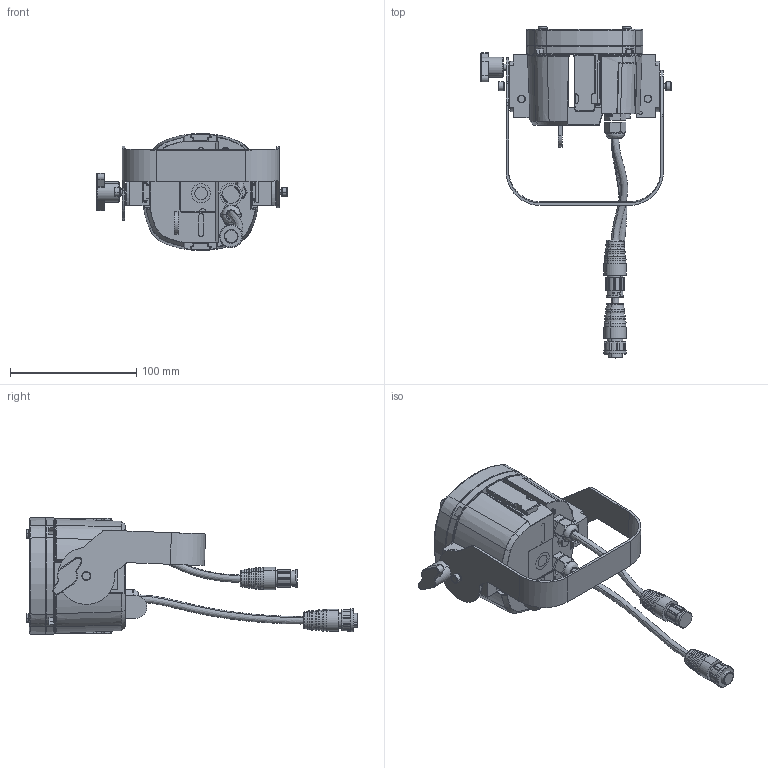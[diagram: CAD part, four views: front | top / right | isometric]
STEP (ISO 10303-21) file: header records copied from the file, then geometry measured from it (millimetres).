
FILE_DESCRIPTION((''),'2;1');
FILE_NAME('EINFACH_SW0001','2019-07-23T09:09:21',('fw'),(''),'CREO PARAMETRIC BY PTC INC, 2018260','CREO PARAMETRIC BY PTC INC, 2018260','');
FILE_SCHEMA(('AUTOMOTIVE_DESIGN { 1 0 10303 214 1 1 1 1 }'));
Products named in the file (1): EINFACH_SW0001
Bounding box: 150.3 x 262.41 x 92.04 mm (x, y, z)
Volume: 2100.9 mm3; surface area: 157822.3 mm2
Topology: 1 solids, 91 shells, 1475 faces, 4390 edges, 2897 vertices
Faces by surface type: plane 480, cylinder 375, bspline 287, cone 182, torus 132, sphere 15, extrusion 4
Entity records: 76989 total; most frequent: CARTESIAN_POINT 28652, ORIENTED_EDGE 7414, DIRECTION 6760, EDGE_CURVE 4390, VERTEX_POINT 2897, AXIS2_PLACEMENT_3D 2514, FILL_AREA_STYLE_COLOUR 1910, FILL_AREA_STYLE 1910
